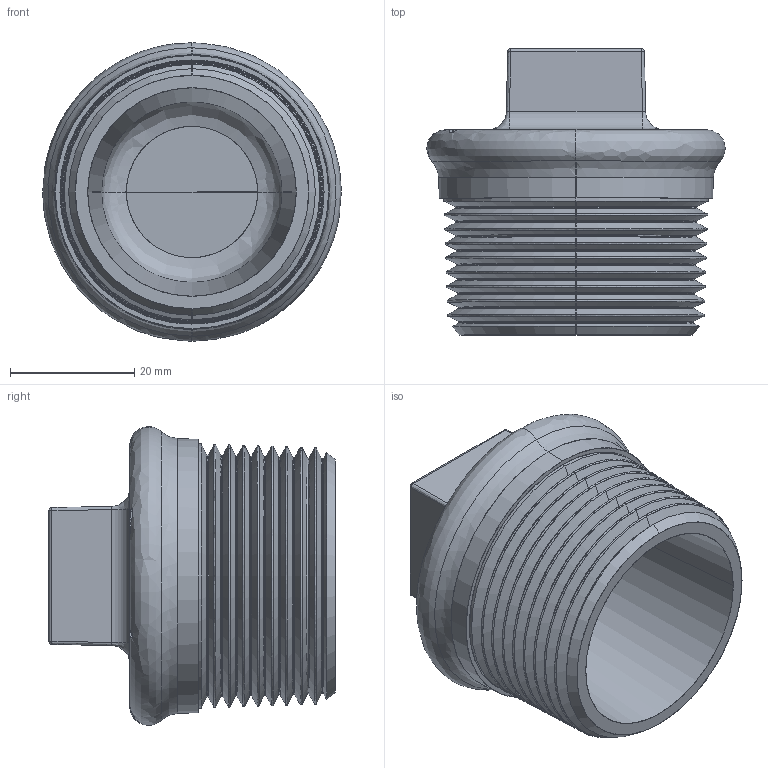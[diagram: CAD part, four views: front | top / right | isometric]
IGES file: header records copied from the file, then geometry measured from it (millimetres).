
Start section: SolidWorks IGES file using analytic representation for surfaces
Global section: file name: C:\Users\Joel Rosa\Desktop\Tubulação\12-03-OK\12-03-008.IGS; native system: SolidWorks 2011; preprocessor: SolidWorks 2011; author: Joel Rosa; date: 121203.234720; units: millimetre
Bounding box: 48 x 46 x 47.98 mm (x, y, z)
Surface area: 13107.5 mm2 (no closed solid volume)
Topology: 0 solids, 0 shells, 236 faces, 1907 edges, 1905 vertices
Faces by surface type: bspline 174, revolution 62
